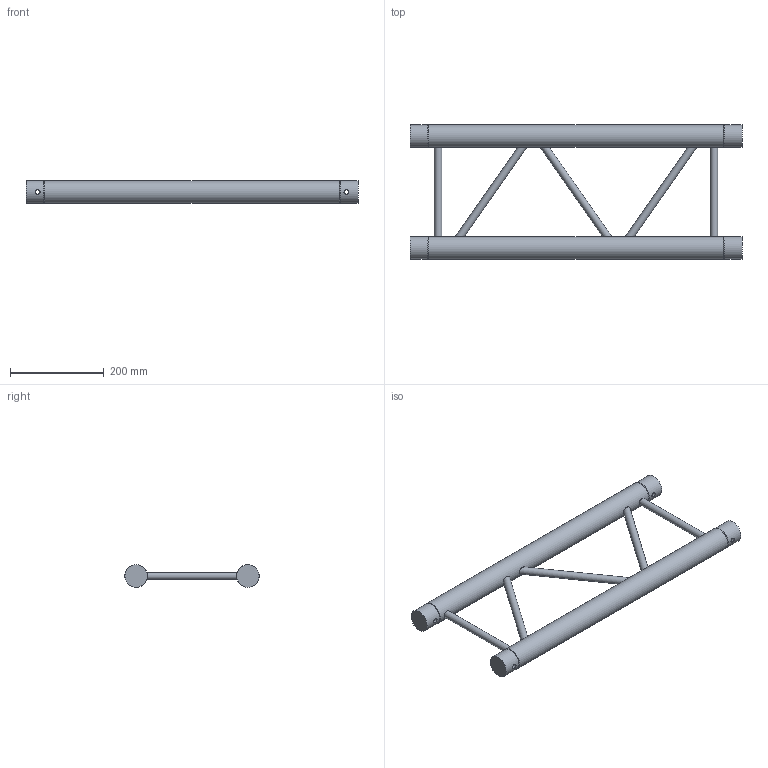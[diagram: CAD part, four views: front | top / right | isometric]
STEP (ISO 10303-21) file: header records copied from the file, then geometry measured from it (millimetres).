
FILE_DESCRIPTION(/* description */ (''),/* implementation_level */ '2;1');
FILE_NAME(/* name */ 'C:\Users\stephan\Desktop\Nieuwe map\H30L\111050479.stp',/* time_stamp */ '2016-09-12T11:46:22+02:00',/* author */ ('Stephan'),/* organization */ (''),/* preprocessor_version */ 'ST-DEVELOPER v15.6',/* originating_system */ 'Autodesk Inventor 2015',/* authorisation */ '');
FILE_SCHEMA (('AUTOMOTIVE_DESIGN { 1 0 10303 214 3 1 1 }'));
Length unit declared in the file: millimetre
Products named in the file (1): 160026968
Bounding box: 710 x 287.3 x 48.3 mm (x, y, z)
Volume: 1084090.2 mm3; surface area: 464371.7 mm2
Topology: 7 solids, 9 shells, 55 faces, 94 edges, 61 vertices
Faces by surface type: plane 30, cylinder 21, cone 4
Full cylindrical faces by diameter (mm): 10 x4, 16 x5, 41.8 x4, 42.3 x2, 48.3 x6
Entity records: 1555 total; most frequent: CARTESIAN_POINT 456, DIRECTION 200, ORIENTED_EDGE 132, EDGE_LOOP 100, AXIS2_PLACEMENT_3D 98, EDGE_CURVE 62, STYLED_ITEM 59, VERTEX_POINT 58
